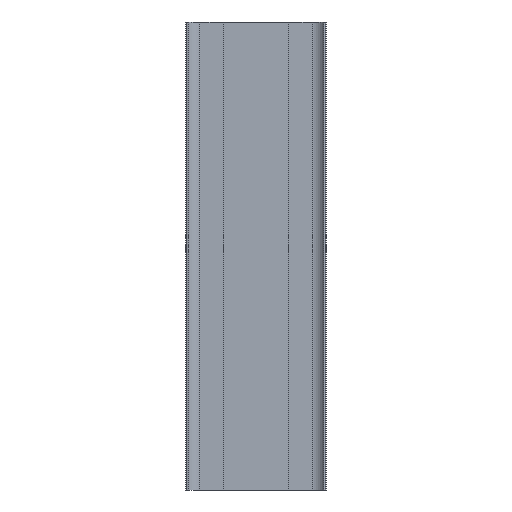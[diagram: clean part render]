
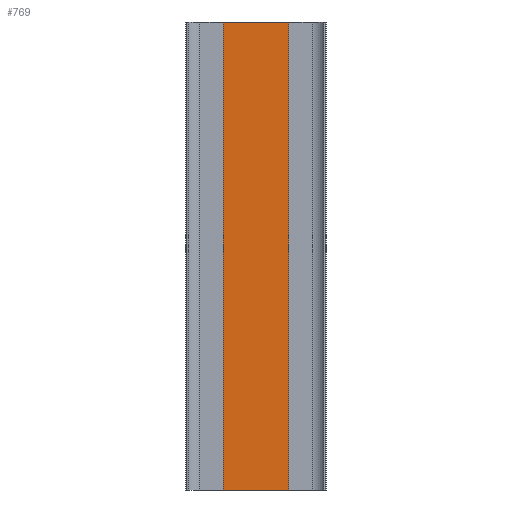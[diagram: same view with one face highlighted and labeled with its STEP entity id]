
A CAD part, front view. The second image highlights one B-rep face of the part: STEP entity #769.
In plain terms, the highlighted planar face has unit normal (0, -1, 0).
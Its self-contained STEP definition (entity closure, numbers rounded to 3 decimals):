
#6 = VERTEX_POINT ( 'NONE', #146 ) ;
#37 = VERTEX_POINT ( 'NONE', #1157 ) ;
#75 = CARTESIAN_POINT ( 'NONE',  ( -9.5, 12.7, 0. ) ) ;
#146 = CARTESIAN_POINT ( 'NONE',  ( -9.5, 12.7, 100. ) ) ;
#172 = AXIS2_PLACEMENT_3D ( 'NONE', #180, #466, #370 ) ;
#180 = CARTESIAN_POINT ( 'NONE',  ( -9.5, 12.7, 0. ) ) ;
#271 = PLANE ( 'NONE',  #172 ) ;
#315 = ORIENTED_EDGE ( 'NONE', *, *, #358, .T. ) ;
#320 = VECTOR ( 'NONE', #846, 1000. ) ;
#358 = EDGE_CURVE ( 'NONE', #730, #6, #795, .T. ) ;
#370 = DIRECTION ( 'NONE',  ( 0., 0., 1. ) ) ;
#398 = DIRECTION ( 'NONE',  ( -1., 0., 0. ) ) ;
#404 = CARTESIAN_POINT ( 'NONE',  ( -9.5, 12.7, 100. ) ) ;
#439 = LINE ( 'NONE', #1147, #924 ) ;
#451 = CARTESIAN_POINT ( 'NONE',  ( 4.5, 12.7, 100. ) ) ;
#466 = DIRECTION ( 'NONE',  ( 0., 1., 0. ) ) ;
#483 = LINE ( 'NONE', #650, #320 ) ;
#490 = DIRECTION ( 'NONE',  ( 0., 0., 1. ) ) ;
#511 = VECTOR ( 'NONE', #398, 1000. ) ;
#536 = FACE_OUTER_BOUND ( 'NONE', #695, .T. ) ;
#580 = VERTEX_POINT ( 'NONE', #75 ) ;
#639 = ORIENTED_EDGE ( 'NONE', *, *, #767, .F. ) ;
#650 = CARTESIAN_POINT ( 'NONE',  ( 4.5, 12.7, 0. ) ) ;
#687 = VECTOR ( 'NONE', #1032, 1000. ) ;
#695 = EDGE_LOOP ( 'NONE', ( #1204, #315, #1041, #639 ) ) ;
#730 = VERTEX_POINT ( 'NONE', #451 ) ;
#767 = EDGE_CURVE ( 'NONE', #37, #580, #911, .T. ) ;
#769 = ADVANCED_FACE ( 'NONE', ( #536 ), #271, .F. ) ;
#795 = LINE ( 'NONE', #404, #511 ) ;
#846 = DIRECTION ( 'NONE',  ( 0., 0., 1. ) ) ;
#890 = EDGE_CURVE ( 'NONE', #37, #730, #483, .T. ) ;
#911 = LINE ( 'NONE', #1101, #687 ) ;
#924 = VECTOR ( 'NONE', #490, 1000. ) ;
#1032 = DIRECTION ( 'NONE',  ( -1., 0., 0. ) ) ;
#1041 = ORIENTED_EDGE ( 'NONE', *, *, #1071, .F. ) ;
#1071 = EDGE_CURVE ( 'NONE', #580, #6, #439, .T. ) ;
#1101 = CARTESIAN_POINT ( 'NONE',  ( 2.673, 12.7, 0. ) ) ;
#1147 = CARTESIAN_POINT ( 'NONE',  ( -9.5, 12.7, 0. ) ) ;
#1157 = CARTESIAN_POINT ( 'NONE',  ( 4.5, 12.7, 0. ) ) ;
#1204 = ORIENTED_EDGE ( 'NONE', *, *, #890, .T. ) ;
